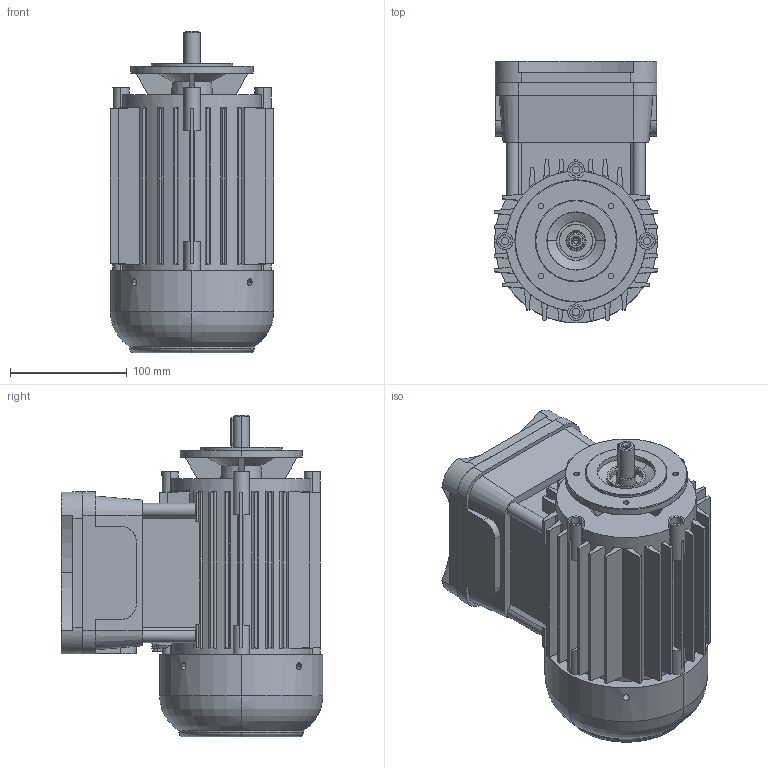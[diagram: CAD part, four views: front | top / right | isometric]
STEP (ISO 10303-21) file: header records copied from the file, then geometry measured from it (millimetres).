
FILE_DESCRIPTION (( 'STEP AP214' ), '1' );
FILE_NAME ('6RD71A2E2 IM3601.STEP', '2021-10-01T11:35:38', ( '' ), ( '' ), 'SwSTEP 2.0', 'SolidWorks 2018', '' );
FILE_SCHEMA (( 'AUTOMOTIVE_DESIGN' ));
Length unit declared in the file: millimetre
Products named in the file (1): 6RD71A2E2 IM3601
Bounding box: 140 x 224.5 x 276.21 mm (x, y, z)
Volume: 4553492.1 mm3; surface area: 292830.6 mm2
Topology: 1 solids, 14 shells, 663 faces, 1648 edges, 1054 vertices
Faces by surface type: plane 346, cylinder 221, cone 76, torus 12, bspline 8
Entity records: 20815 total; most frequent: CARTESIAN_POINT 5080, DIRECTION 3302, ORIENTED_EDGE 3252, EDGE_CURVE 1626, AXIS2_PLACEMENT_3D 1188, VERTEX_POINT 1054, VECTOR 926, LINE 926
